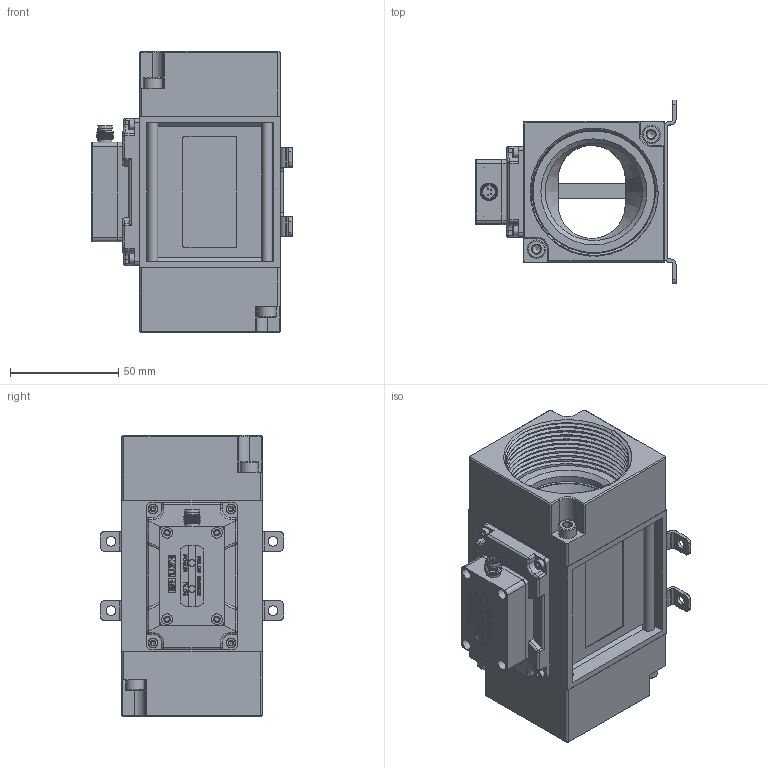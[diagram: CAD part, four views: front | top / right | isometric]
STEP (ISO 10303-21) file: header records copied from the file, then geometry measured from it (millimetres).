
FILE_DESCRIPTION( (''), '2;1');
FILE_NAME( 'QEKJ_400L_R2_M12_bracket.step', '2023-03-09T11:04:42+08:00', (''), (''), '', '', '');
FILE_SCHEMA (('CONFIG_CONTROL_DESIGN'));
Products named in the file (1): QEKJ 400L_R2_M12_bracket
Bounding box: 92.5 x 85 x 130 mm (x, y, z)
Volume: 221779 mm3; surface area: 129723.3 mm2
Topology: 18 solids, 18 shells, 1711 faces, 4291 edges, 2728 vertices
Faces by surface type: plane 988, cylinder 385, cone 150, extrusion 116, torus 44, sphere 16, bspline 12
Full cylindrical faces by diameter (mm): 0.6 x4, 1.5 x2, 1.6 x6, 2 x3, 2.05 x8, 2.38 x4, 2.8 x4, 3 x10, 3.3 x4, 4 x5, 4.2 x4, 4.5 x12, 4.826 x8, 5 x8, 5.5 x12, 5.8 x1, 6 x2, 6.5 x2, 7 x1, 8 x8, 8.5 x16, 45 x2
Entity records: 60224 total; most frequent: CARTESIAN_POINT 21650, ORIENTED_EDGE 7902, DIRECTION 7357, EDGE_CURVE 3951, VERTEX_POINT 2652, AXIS2_PLACEMENT_3D 2574, VECTOR 2209, EDGE_LOOP 2133
